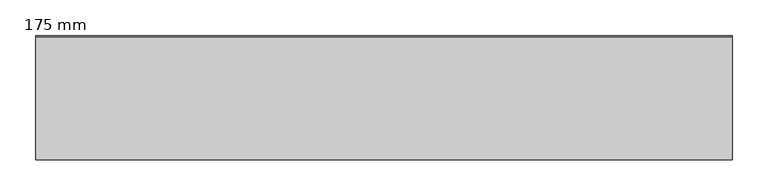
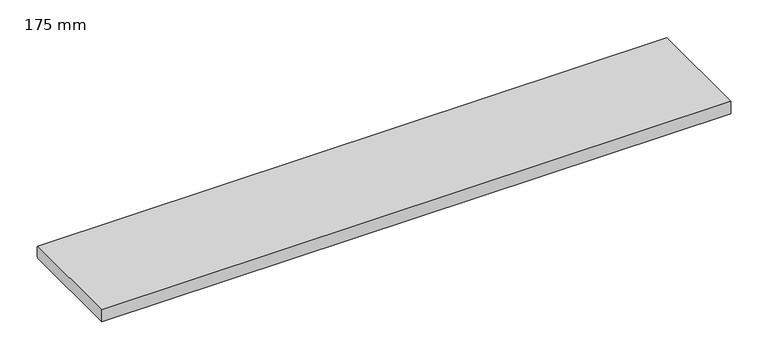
"""IFC4 building model written with IfcOpenShell, lengths in millimetres: proxy geometry, 400_35_NS_vensterbank : 175 mm."""

from ifc_helpers import new_model, si_unit, frame, origin, place, context, project, spatial, polyline, outline, extrude, source, transform, mapped, element, save


def proxy_175_mm_35256b22(model_context):
    return source(origin(), model_context, "Body", "SweptSolid", [
        extrude(outline(polyline([(0.0, 0.0), (0.0, 20.0), (173.0, 20.0), (175.0, 18.0), (175.0, 2.0), (173.0, 0.0), (0.0, 0.0)])), frame((-490.0, 0.0, 0.0), z_axis=(1.0, 0.0, 0.0), x_axis=(0.0, 1.0, 0.0)), (0.0, 0.0, 1.0), 980.0),
    ])


if __name__ == "__main__":
    model = new_model("IFC4")
    model_context = context("Model", 3, world=origin())
    ifc_project = project(units=[si_unit("LENGTHUNIT", "METRE", prefix="MILLI")], contexts=[model_context])
    site = spatial("IfcSite", under=ifc_project)
    building = spatial("IfcBuilding", under=site)
    placement = place(None, origin())
    proxy_175_mm_shape = proxy_175_mm_35256b22(model_context)
    element("IfcBuildingElementProxy", 1, Name="400_35_NS_vensterbank : 175 mm", ObjectType="400_35_NS_vensterbank : 175 mm", at=placement, inside=building, context=model_context, shape_type="MappedRepresentation", body=[
        mapped(proxy_175_mm_shape, transform((0.0, 0.0, 0.0), x_axis=(1.0, 0.0, 0.0), y_axis=(0.0, 1.0, 0.0), z_axis=(0.0, 0.0, 1.0))),
    ])
    save(model, "model.ifc")
